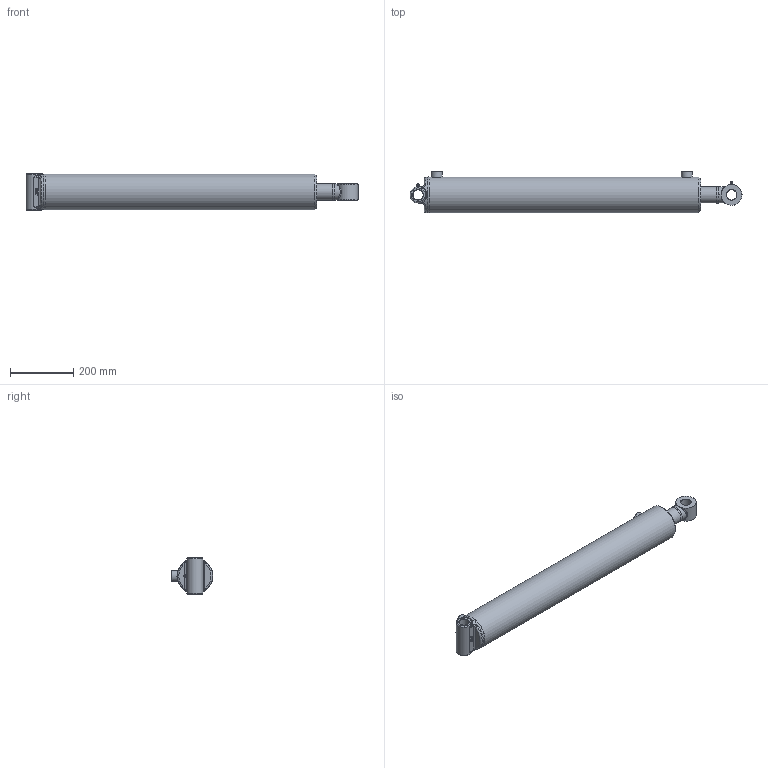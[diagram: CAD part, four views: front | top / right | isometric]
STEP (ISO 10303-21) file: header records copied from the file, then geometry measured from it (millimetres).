
FILE_DESCRIPTION(/* description */ ('Ø4.00 X 30.00 DA'),/* implementation_level */ '2;1');
FILE_NAME(/* name */ 'D:\Temp\1EC677A6E7D1F06\hdhzm2yq.3zc\Temp\nbhx4a3i..stp',/* time_stamp */ '2020-09-18T15:57:31+00:00',/* author */ (''),/* organization */ ('PRINCE MANUFACTURING'),/* preprocessor_version */ 'ST-DEVELOPER v18.1',/* originating_system */ 'Autodesk Inventor 2021',/* authorisation */ '');
FILE_SCHEMA (('AUTOMOTIVE_DESIGN { 1 0 10303 214 3 1 1 }'));
Length unit declared in the file: inch
Products named in the file (21): PC4030020A00-390XTXS; 0619-XTSG00-300; 0519-T-33620; 161900225; 200015706; 06Weld1_C360; 0719-P-125; 220000212; 0819-G-200; 230025106; 230025006; 240000026; 240061342; 240000342; 0211-AXS40-390X; 0111A-JAW4-35937; 210600511; 02Weld_C360; 240020009; 250014200; 270010020
Assembly tree (22 placements, depth 3):
  PC4030020A00-390XTXS
    0619-XTSG00-300
      0519-T-33620
      161900225
      200015706  x2
      06Weld1_C360
    0719-P-125
    220000212
    0819-G-200
    230025106
    230025006
    240000026
    240061342
    240000342
    0211-AXS40-390X
      0111A-JAW4-35937
      210600511
      02Weld_C360
    240020009
    250014200
    270010020  x2
Bounding box: 1048.67 x 132.19 x 114.3 mm (x, y, z)
Volume: 4325902.3 mm3; surface area: 950274.1 mm2
Topology: 26 solids, 26 shells, 499 faces, 1415 edges, 978 vertices
Faces by surface type: plane 139, bspline 126, torus 90, cylinder 80, cone 62, sphere 2
Full cylindrical faces by diameter (mm): 1.524 x2, 5.359 x2, 6.35 x2, 12.7 x2, 20.269 x2, 29.464 x1, 31.699 x1, 31.826 x1, 32.131 x2, 34.315 x1, 34.925 x2, 35.052 x2, 50.8 x1, 50.876 x2, 51.994 x2, 52.832 x1, 53.188 x1, 57.963 x1, 59.157 x1, 60.35 x1, 61.976 x2, 63.5 x2, 73.152 x1, 82.55 x1, 92.177 x2, 92.913 x2, 96.52 x1, 98.031 x2, 98.273 x4, 100.986 x2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
Entity records: 32916 total; most frequent: CARTESIAN_POINT 19556, ORIENTED_EDGE 2656, DIRECTION 2459, EDGE_CURVE 1328, AXIS2_PLACEMENT_3D 1059, VERTEX_POINT 925, CIRCLE 657, EDGE_LOOP 539
